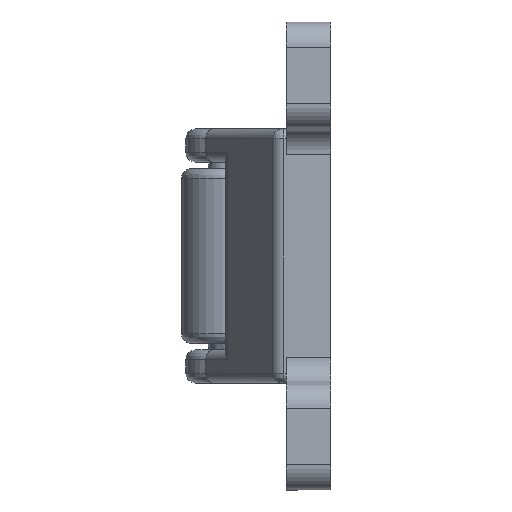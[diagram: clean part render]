
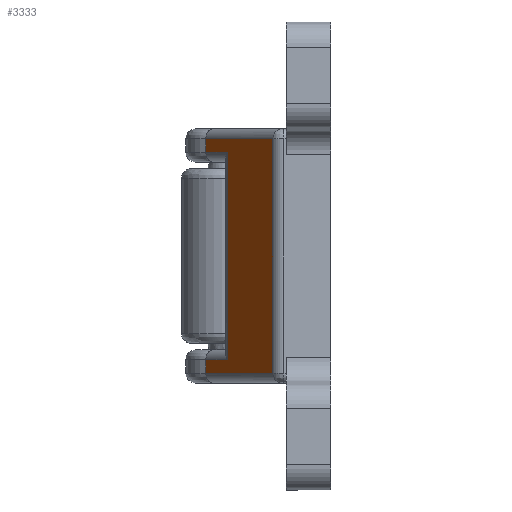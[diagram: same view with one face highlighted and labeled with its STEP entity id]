
A CAD part, left-side view. The second image highlights one B-rep face of the part: STEP entity #3333.
In plain terms, the highlighted planar face has unit normal (-0.511, 0.86, 0) as drawn and (0.511, 0.86, 0) by its records, which use the part's own axes.
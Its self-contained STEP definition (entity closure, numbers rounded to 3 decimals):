
#28 = DIRECTION ( 'NONE',  ( 0.86, -0.511, 0. ) ) ;
#33 = AXIS2_PLACEMENT_3D ( 'NONE', #284, #332, #921 ) ;
#39 = CARTESIAN_POINT ( 'NONE',  ( -22.046, 19.638, -16.3 ) ) ;
#53 = CARTESIAN_POINT ( 'NONE',  ( -18.7, 17.65, -18.5 ) ) ;
#140 = VERTEX_POINT ( 'NONE', #3848 ) ;
#149 = LINE ( 'NONE', #609, #2669 ) ;
#221 = CARTESIAN_POINT ( 'NONE',  ( -22.046, 19.638, 20. ) ) ;
#284 = CARTESIAN_POINT ( 'NONE',  ( -18.7, 17.65, 20. ) ) ;
#286 = VECTOR ( 'NONE', #2467, 1000. ) ;
#332 = DIRECTION ( 'NONE',  ( -0.511, -0.86, 0. ) ) ;
#350 = VECTOR ( 'NONE', #3026, 1000. ) ;
#373 = EDGE_CURVE ( 'NONE', #1201, #2024, #481, .T. ) ;
#390 = VERTEX_POINT ( 'NONE', #39 ) ;
#397 = VECTOR ( 'NONE', #1274, 1000. ) ;
#481 = LINE ( 'NONE', #53, #3066 ) ;
#555 = ORIENTED_EDGE ( 'NONE', *, *, #1335, .F. ) ;
#609 = CARTESIAN_POINT ( 'NONE',  ( -4.278, 9.081, 20. ) ) ;
#758 = DIRECTION ( 'NONE',  ( 0., 0., -1. ) ) ;
#833 = CARTESIAN_POINT ( 'NONE',  ( -22.046, 19.638, 20. ) ) ;
#885 = ORIENTED_EDGE ( 'NONE', *, *, #2441, .F. ) ;
#921 = DIRECTION ( 'NONE',  ( 0.86, -0.511, 0. ) ) ;
#1060 = CARTESIAN_POINT ( 'NONE',  ( -18.7, 17.65, -16.3 ) ) ;
#1094 = EDGE_CURVE ( 'NONE', #390, #1201, #2503, .T. ) ;
#1201 = VERTEX_POINT ( 'NONE', #2993 ) ;
#1262 = FACE_OUTER_BOUND ( 'NONE', #2501, .T. ) ;
#1274 = DIRECTION ( 'NONE',  ( 0., 0., -1. ) ) ;
#1311 = PLANE ( 'NONE',  #33 ) ;
#1335 = EDGE_CURVE ( 'NONE', #3715, #390, #1464, .T. ) ;
#1464 = LINE ( 'NONE', #1060, #3985 ) ;
#1473 = EDGE_CURVE ( 'NONE', #2488, #3715, #2620, .T. ) ;
#1676 = VERTEX_POINT ( 'NONE', #3587 ) ;
#1742 = VERTEX_POINT ( 'NONE', #2060 ) ;
#1820 = CARTESIAN_POINT ( 'NONE',  ( -16.434, 16.304, 16.3 ) ) ;
#1847 = LINE ( 'NONE', #221, #350 ) ;
#2024 = VERTEX_POINT ( 'NONE', #2290 ) ;
#2042 = LINE ( 'NONE', #2787, #3495 ) ;
#2060 = CARTESIAN_POINT ( 'NONE',  ( -22.046, 19.638, 18.5 ) ) ;
#2140 = LINE ( 'NONE', #2615, #286 ) ;
#2290 = CARTESIAN_POINT ( 'NONE',  ( -4.278, 9.081, -18.5 ) ) ;
#2441 = EDGE_CURVE ( 'NONE', #1742, #1676, #1847, .T. ) ;
#2467 = DIRECTION ( 'NONE',  ( -0.86, 0.511, 0. ) ) ;
#2488 = VERTEX_POINT ( 'NONE', #1820 ) ;
#2501 = EDGE_LOOP ( 'NONE', ( #2880, #885, #2754, #3807, #2996, #3123, #555, #3000 ) ) ;
#2503 = LINE ( 'NONE', #833, #2922 ) ;
#2615 = CARTESIAN_POINT ( 'NONE',  ( -18.7, 17.65, 18.5 ) ) ;
#2620 = LINE ( 'NONE', #3504, #397 ) ;
#2631 = EDGE_CURVE ( 'NONE', #2024, #140, #149, .T. ) ;
#2669 = VECTOR ( 'NONE', #3260, 1000. ) ;
#2684 = EDGE_CURVE ( 'NONE', #140, #1742, #2140, .T. ) ;
#2751 = EDGE_CURVE ( 'NONE', #1676, #2488, #2042, .T. ) ;
#2754 = ORIENTED_EDGE ( 'NONE', *, *, #2684, .F. ) ;
#2779 = CARTESIAN_POINT ( 'NONE',  ( -16.434, 16.304, -16.3 ) ) ;
#2787 = CARTESIAN_POINT ( 'NONE',  ( -18.7, 17.65, 16.3 ) ) ;
#2880 = ORIENTED_EDGE ( 'NONE', *, *, #2751, .F. ) ;
#2922 = VECTOR ( 'NONE', #758, 1000. ) ;
#2993 = CARTESIAN_POINT ( 'NONE',  ( -22.046, 19.638, -18.5 ) ) ;
#2996 = ORIENTED_EDGE ( 'NONE', *, *, #373, .F. ) ;
#3000 = ORIENTED_EDGE ( 'NONE', *, *, #1473, .F. ) ;
#3026 = DIRECTION ( 'NONE',  ( 0., 0., -1. ) ) ;
#3066 = VECTOR ( 'NONE', #28, 1000. ) ;
#3123 = ORIENTED_EDGE ( 'NONE', *, *, #1094, .F. ) ;
#3260 = DIRECTION ( 'NONE',  ( 0., 0., 1. ) ) ;
#3333 = ADVANCED_FACE ( 'NONE', ( #1262 ), #1311, .F. ) ;
#3495 = VECTOR ( 'NONE', #3798, 1000. ) ;
#3504 = CARTESIAN_POINT ( 'NONE',  ( -16.434, 16.304, -36.85 ) ) ;
#3587 = CARTESIAN_POINT ( 'NONE',  ( -22.046, 19.638, 16.3 ) ) ;
#3715 = VERTEX_POINT ( 'NONE', #2779 ) ;
#3798 = DIRECTION ( 'NONE',  ( 0.86, -0.511, 0. ) ) ;
#3807 = ORIENTED_EDGE ( 'NONE', *, *, #2631, .F. ) ;
#3848 = CARTESIAN_POINT ( 'NONE',  ( -4.278, 9.081, 18.5 ) ) ;
#3890 = DIRECTION ( 'NONE',  ( -0.86, 0.511, 0. ) ) ;
#3985 = VECTOR ( 'NONE', #3890, 1000. ) ;
